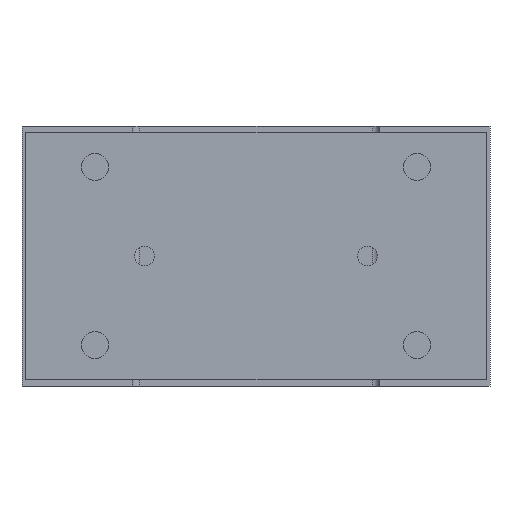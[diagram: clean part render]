
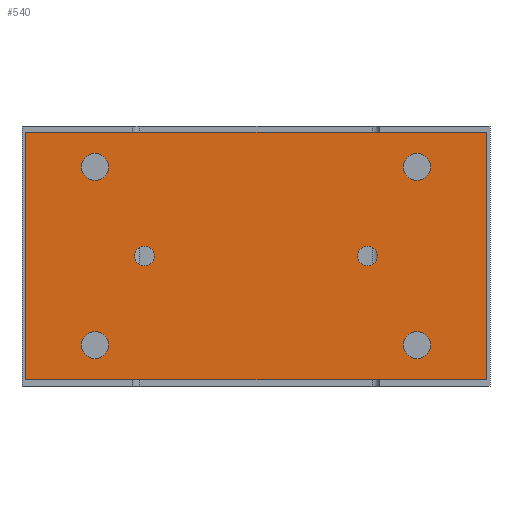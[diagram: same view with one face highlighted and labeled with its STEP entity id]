
A CAD part, left-side view. The second image highlights one B-rep face of the part: STEP entity #540.
In plain terms, the highlighted planar face has unit normal (-1, 0, 0).
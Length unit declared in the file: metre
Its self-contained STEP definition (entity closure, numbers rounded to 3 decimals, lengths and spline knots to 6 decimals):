
#540 = ADVANCED_FACE( '', ( #1241, #1242, #1243, #1244, #1245, #1246, #1247 ), #1248, .T. );
#1241 = FACE_BOUND( '', #2045, .T. );
#1242 = FACE_BOUND( '', #2046, .T. );
#1243 = FACE_BOUND( '', #2047, .T. );
#1244 = FACE_BOUND( '', #2048, .T. );
#1245 = FACE_BOUND( '', #2049, .T. );
#1246 = FACE_BOUND( '', #2050, .T. );
#1247 = FACE_OUTER_BOUND( '', #2051, .T. );
#1248 = PLANE( '', #2052 );
#2045 = EDGE_LOOP( '', ( #3399 ) );
#2046 = EDGE_LOOP( '', ( #3400 ) );
#2047 = EDGE_LOOP( '', ( #3401 ) );
#2048 = EDGE_LOOP( '', ( #3402 ) );
#2049 = EDGE_LOOP( '', ( #3403 ) );
#2050 = EDGE_LOOP( '', ( #3404 ) );
#2051 = EDGE_LOOP( '', ( #3405, #3406, #3407, #3408 ) );
#2052 = AXIS2_PLACEMENT_3D( '', #3409, #3410, #3411 );
#3399 = ORIENTED_EDGE( '', *, *, #4286, .F. );
#3400 = ORIENTED_EDGE( '', *, *, #4061, .F. );
#3401 = ORIENTED_EDGE( '', *, *, #4287, .F. );
#3402 = ORIENTED_EDGE( '', *, *, #4031, .F. );
#3403 = ORIENTED_EDGE( '', *, *, #4288, .F. );
#3404 = ORIENTED_EDGE( '', *, *, #4289, .T. );
#3405 = ORIENTED_EDGE( '', *, *, #4290, .T. );
#3406 = ORIENTED_EDGE( '', *, *, #4279, .T. );
#3407 = ORIENTED_EDGE( '', *, *, #4181, .T. );
#3408 = ORIENTED_EDGE( '', *, *, #3975, .T. );
#3409 = CARTESIAN_POINT( '', ( -0.135, 0.093, -0.1025 ) );
#3410 = DIRECTION( '', ( -1., 0., 0. ) );
#3411 = DIRECTION( '', ( 0., 0., -1. ) );
#3975 = EDGE_CURVE( '', #4652, #4650, #4653, .T. );
#4031 = EDGE_CURVE( '', #4743, #4743, #4744, .T. );
#4061 = EDGE_CURVE( '', #4791, #4791, #4792, .T. );
#4181 = EDGE_CURVE( '', #4962, #4652, #4963, .T. );
#4279 = EDGE_CURVE( '', #5091, #4962, #5092, .T. );
#4286 = EDGE_CURVE( '', #5100, #5100, #5101, .T. );
#4287 = EDGE_CURVE( '', #5102, #5102, #5103, .T. );
#4288 = EDGE_CURVE( '', #5104, #5104, #5105, .T. );
#4289 = EDGE_CURVE( '', #5106, #5106, #5107, .T. );
#4290 = EDGE_CURVE( '', #4650, #5091, #5108, .T. );
#4650 = VERTEX_POINT( '', #5593 );
#4652 = VERTEX_POINT( '', #5596 );
#4653 = LINE( '', #5597, #5598 );
#4743 = VERTEX_POINT( '', #5714 );
#4744 = CIRCLE( '', #5715, 0.0055 );
#4791 = VERTEX_POINT( '', #5774 );
#4792 = CIRCLE( '', #5775, 0.0055 );
#4962 = VERTEX_POINT( '', #6110 );
#4963 = LINE( '', #6111, #6112 );
#5091 = VERTEX_POINT( '', #6312 );
#5092 = LINE( '', #6313, #6314 );
#5100 = VERTEX_POINT( '', #6323 );
#5101 = CIRCLE( '', #6324, 0.0055 );
#5102 = VERTEX_POINT( '', #6325 );
#5103 = CIRCLE( '', #6326, 0.0055 );
#5104 = VERTEX_POINT( '', #6327 );
#5105 = CIRCLE( '', #6328, 0.004 );
#5106 = VERTEX_POINT( '', #6329 );
#5107 = CIRCLE( '', #6330, 0.004 );
#5108 = LINE( '', #6331, #6332 );
#5593 = CARTESIAN_POINT( '', ( -0.135, 0.093, -0.0025 ) );
#5596 = CARTESIAN_POINT( '', ( -0.135, -0.093, -0.0025 ) );
#5597 = CARTESIAN_POINT( '', ( -0.135, -0.093, -0.0025 ) );
#5598 = VECTOR( '', #6709, 1. );
#5714 = CARTESIAN_POINT( '', ( -0.135, -0.0705, -0.0885 ) );
#5715 = AXIS2_PLACEMENT_3D( '', #6778, #6779, #6780 );
#5774 = CARTESIAN_POINT( '', ( -0.135, -0.0705, -0.0165 ) );
#5775 = AXIS2_PLACEMENT_3D( '', #6823, #6824, #6825 );
#6110 = CARTESIAN_POINT( '', ( -0.135, -0.093, -0.1025 ) );
#6111 = CARTESIAN_POINT( '', ( -0.135, -0.093, -0.1025 ) );
#6112 = VECTOR( '', #6955, 1. );
#6312 = CARTESIAN_POINT( '', ( -0.135, 0.093, -0.1025 ) );
#6313 = CARTESIAN_POINT( '', ( -0.135, 0.093, -0.1025 ) );
#6314 = VECTOR( '', #7046, 1. );
#6323 = CARTESIAN_POINT( '', ( -0.135, 0.0595, -0.0165 ) );
#6324 = AXIS2_PLACEMENT_3D( '', #7051, #7052, #7053 );
#6325 = CARTESIAN_POINT( '', ( -0.135, 0.0595, -0.0885 ) );
#6326 = AXIS2_PLACEMENT_3D( '', #7054, #7055, #7056 );
#6327 = CARTESIAN_POINT( '', ( -0.135, 0.041, -0.0525 ) );
#6328 = AXIS2_PLACEMENT_3D( '', #7057, #7058, #7059 );
#6329 = CARTESIAN_POINT( '', ( -0.135, -0.041, -0.0525 ) );
#6330 = AXIS2_PLACEMENT_3D( '', #7060, #7061, #7062 );
#6331 = CARTESIAN_POINT( '', ( -0.135, 0.093, -0.0025 ) );
#6332 = VECTOR( '', #7063, 1. );
#6709 = DIRECTION( '', ( 0., 1., 0. ) );
#6778 = CARTESIAN_POINT( '', ( -0.135, -0.065, -0.0885 ) );
#6779 = DIRECTION( '', ( -1., 0., 0. ) );
#6780 = DIRECTION( '', ( 0., -1., 0. ) );
#6823 = CARTESIAN_POINT( '', ( -0.135, -0.065, -0.0165 ) );
#6824 = DIRECTION( '', ( -1., 0., 0. ) );
#6825 = DIRECTION( '', ( 0., -1., 0. ) );
#6955 = DIRECTION( '', ( 0., 0., 1. ) );
#7046 = DIRECTION( '', ( 0., -1., 0. ) );
#7051 = CARTESIAN_POINT( '', ( -0.135, 0.065, -0.0165 ) );
#7052 = DIRECTION( '', ( -1., 0., 0. ) );
#7053 = DIRECTION( '', ( 0., -1., 0. ) );
#7054 = CARTESIAN_POINT( '', ( -0.135, 0.065, -0.0885 ) );
#7055 = DIRECTION( '', ( -1., 0., 0. ) );
#7056 = DIRECTION( '', ( 0., -1., 0. ) );
#7057 = CARTESIAN_POINT( '', ( -0.135, 0.045, -0.0525 ) );
#7058 = DIRECTION( '', ( -1., 0., 0. ) );
#7059 = DIRECTION( '', ( 0., -1., 0. ) );
#7060 = CARTESIAN_POINT( '', ( -0.135, -0.045, -0.0525 ) );
#7061 = DIRECTION( '', ( 1., 0., 0. ) );
#7062 = DIRECTION( '', ( 0., 1., 0. ) );
#7063 = DIRECTION( '', ( 0., 0., -1. ) );
